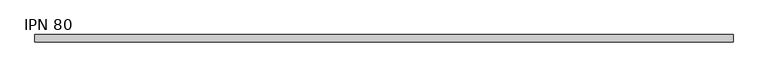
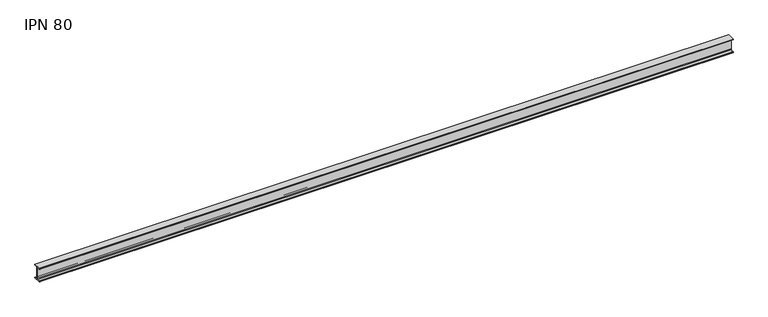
"""IFC4 building model written with IfcOpenShell, lengths in millimetres: beam geometry, IPN - Secciones en I con alas cónicas : IPN 80."""

from ifc_helpers import new_model, si_unit, point, frame, frame_2d, origin, place, context, project, spatial, polyline, circle_curve, trimmed, segment, composite_curve, outline, extrude, source, transform, mapped, element, save


def ipn_80_3f6c81a5(model_context):
    return source(origin(), model_context, "Body", "SweptSolid", [
        extrude(outline(composite_curve([segment(polyline([(-21.0, 40.0), (21.0, 40.0), (21.0, 37.5704306)]), True, "CONTINUOUS"), segment(trimmed(circle_curve(frame_2d((18.7, 37.5704306)), 2.3), [point((21.0, 37.5704306))], [point((19.01889, 35.2926446))], False, "CARTESIAN"), True, "CONTINUOUS"), segment(polyline([(19.01889, 35.2926446), (5.3092734, 33.3732983)]), True, "CONTINUOUS"), segment(trimmed(circle_curve(frame_2d((5.85, 29.5109655)), 3.9), [point((5.3092734, 33.3732983))], [point((1.95, 29.5109655))], True, "CARTESIAN"), True, "CONTINUOUS"), segment(polyline([(1.95, 29.5109655), (1.95, -29.5109655)]), True, "CONTINUOUS"), segment(trimmed(circle_curve(frame_2d((5.85, -29.5109655)), 3.9), [point((1.95, -29.5109655))], [point((5.3092734, -33.3732983))], True, "CARTESIAN"), True, "CONTINUOUS"), segment(polyline([(5.3092734, -33.3732983), (19.01889, -35.2926446)]), True, "CONTINUOUS"), segment(trimmed(circle_curve(frame_2d((18.7, -37.5704306)), 2.3), [point((19.01889, -35.2926446))], [point((21.0, -37.5704306))], False, "CARTESIAN"), True, "CONTINUOUS"), segment(polyline([(21.0, -37.5704306), (21.0, -40.0), (-21.0, -40.0), (-21.0, -37.5704306)]), True, "CONTINUOUS"), segment(trimmed(circle_curve(frame_2d((-18.7, -37.5704306)), 2.3), [point((-21.0, -37.5704306))], [point((-19.01889, -35.2926446))], False, "CARTESIAN"), True, "CONTINUOUS"), segment(polyline([(-19.01889, -35.2926446), (-5.3092734, -33.3732983)]), True, "CONTINUOUS"), segment(trimmed(circle_curve(frame_2d((-5.85, -29.5109655)), 3.9), [point((-5.3092734, -33.3732983))], [point((-1.95, -29.5109655))], True, "CARTESIAN"), True, "CONTINUOUS"), segment(polyline([(-1.95, -29.5109655), (-1.95, 29.5109655)]), True, "CONTINUOUS"), segment(trimmed(circle_curve(frame_2d((-5.85, 29.5109655)), 3.9), [point((-1.95, 29.5109655))], [point((-5.3092734, 33.3732983))], True, "CARTESIAN"), True, "CONTINUOUS"), segment(polyline([(-5.3092734, 33.3732983), (-19.01889, 35.2926446)]), True, "CONTINUOUS"), segment(trimmed(circle_curve(frame_2d((-18.7, 37.5704306)), 2.3), [point((-19.01889, 35.2926446))], [point((-21.0, 37.5704306))], False, "CARTESIAN"), True, "CONTINUOUS"), segment(polyline([(-21.0, 37.5704306), (-21.0, 40.0)]), True, "CONTINUOUS")], self_intersect=False)), frame((-1938.0, 0.0, 0.0), z_axis=(1.0, 0.0, 0.0), x_axis=(0.0, 1.0, 0.0)), (0.0, 0.0, 1.0), 3889.0),
    ])


if __name__ == "__main__":
    model = new_model("IFC4")
    model_context = context("Model", 3, world=origin())
    ifc_project = project(units=[si_unit("LENGTHUNIT", "METRE", prefix="MILLI")], contexts=[model_context])
    site = spatial("IfcSite", under=ifc_project)
    building = spatial("IfcBuilding", under=site)
    placement = place(None, origin())
    ipn_80_shape = ipn_80_3f6c81a5(model_context)
    element("IfcBeam", 1, ObjectType="IPN - Secciones en I con alas cónicas : IPN 80", at=placement, inside=building, context=model_context, shape_type="MappedRepresentation", body=[
        mapped(ipn_80_shape, transform((0.0, 0.0, 0.0), x_axis=(1.0, 0.0, 0.0), y_axis=(0.0, 1.0, 0.0), z_axis=(0.0, 0.0, 1.0))),
    ])
    save(model, "model.ifc")
